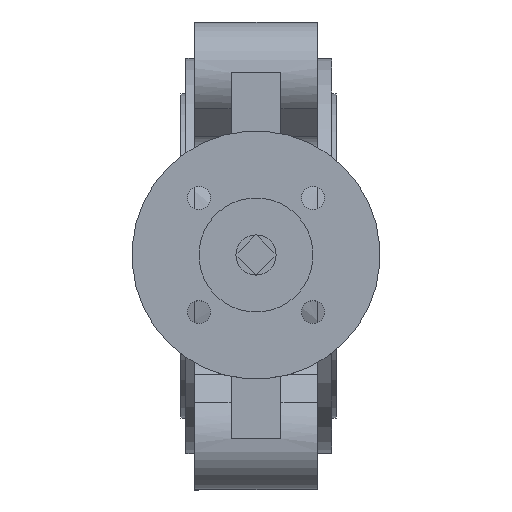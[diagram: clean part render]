
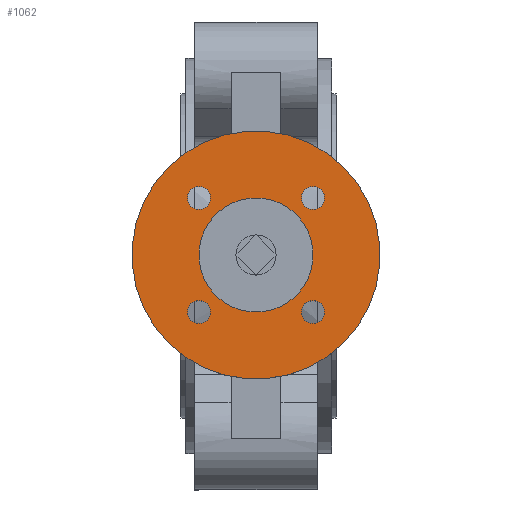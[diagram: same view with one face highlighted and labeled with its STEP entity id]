
A CAD part, top view. The second image highlights one B-rep face of the part: STEP entity #1062.
In plain terms, the highlighted planar face has unit normal (0, 0, 1).
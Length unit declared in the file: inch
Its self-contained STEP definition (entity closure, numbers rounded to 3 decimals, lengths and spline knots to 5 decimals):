
#918=CARTESIAN_POINT('',(1.21821,0.49321,10.62));
#919=VERTEX_POINT('',#918);
#920=CARTESIAN_POINT('',(0.725,0.,10.62));
#921=DIRECTION('',(0.0,0.0,-1.0));
#922=DIRECTION('',(0.707,0.707,0.0));
#923=AXIS2_PLACEMENT_3D('',#920,#921,#922);
#924=CIRCLE('',#923,0.6975);
#925=EDGE_CURVE('',#919,#919,#924,.T.);
#944=CARTESIAN_POINT('',(0.12749,0.7955,10.62));
#945=VERTEX_POINT('',#944);
#946=CARTESIAN_POINT('',(0.0285,0.6965,10.62));
#947=DIRECTION('',(0.0,0.0,-1.0));
#948=DIRECTION('',(-0.707,-0.707,0.0));
#949=AXIS2_PLACEMENT_3D('',#946,#947,#948);
#950=CIRCLE('',#949,0.14);
#951=EDGE_CURVE('',#945,#945,#950,.T.);
#964=CARTESIAN_POINT('',(1.32251,-0.7955,10.62));
#965=VERTEX_POINT('',#964);
#966=CARTESIAN_POINT('',(1.4215,-0.6965,10.62));
#967=DIRECTION('',(0.0,0.0,-1.0));
#968=DIRECTION('',(0.707,0.707,0.0));
#969=AXIS2_PLACEMENT_3D('',#966,#967,#968);
#970=CIRCLE('',#969,0.14);
#971=EDGE_CURVE('',#965,#965,#970,.T.);
#984=CARTESIAN_POINT('',(1.5205,0.59751,10.62));
#985=VERTEX_POINT('',#984);
#986=CARTESIAN_POINT('',(1.4215,0.6965,10.62));
#987=DIRECTION('',(0.0,0.0,-1.0));
#988=DIRECTION('',(-0.707,0.707,0.0));
#989=AXIS2_PLACEMENT_3D('',#986,#987,#988);
#990=CIRCLE('',#989,0.14);
#991=EDGE_CURVE('',#985,#985,#990,.T.);
#1004=CARTESIAN_POINT('',(-0.0705,-0.59751,10.62));
#1005=VERTEX_POINT('',#1004);
#1006=CARTESIAN_POINT('',(0.0285,-0.6965,10.62));
#1007=DIRECTION('',(0.0,0.0,-1.0));
#1008=DIRECTION('',(0.707,-0.707,0.0));
#1009=AXIS2_PLACEMENT_3D('',#1006,#1007,#1008);
#1010=CIRCLE('',#1009,0.14);
#1011=EDGE_CURVE('',#1005,#1005,#1010,.T.);
#1024=CARTESIAN_POINT('',(1.79627,1.07127,10.62));
#1025=VERTEX_POINT('',#1024);
#1026=CARTESIAN_POINT('',(0.725,0.,10.62));
#1027=DIRECTION('',(0.0,0.0,-1.0));
#1028=DIRECTION('',(0.707,0.707,0.0));
#1029=AXIS2_PLACEMENT_3D('',#1026,#1027,#1028);
#1030=CIRCLE('',#1029,1.515);
#1031=EDGE_CURVE('',#1025,#1025,#1030,.T.);
#1039=CARTESIAN_POINT('',(0.725,0.,10.62));
#1040=DIRECTION('',(0.0,0.0,1.0));
#1041=DIRECTION('',(0.707,0.707,0.0));
#1042=AXIS2_PLACEMENT_3D('',#1039,#1040,#1041);
#1043=PLANE('',#1042);
#1044=ORIENTED_EDGE('',*,*,#1031,.F.);
#1045=EDGE_LOOP('',(#1044));
#1046=FACE_OUTER_BOUND('',#1045,.T.);
#1047=ORIENTED_EDGE('',*,*,#925,.T.);
#1048=EDGE_LOOP('',(#1047));
#1049=FACE_BOUND('',#1048,.T.);
#1050=ORIENTED_EDGE('',*,*,#1011,.T.);
#1051=EDGE_LOOP('',(#1050));
#1052=FACE_BOUND('',#1051,.T.);
#1053=ORIENTED_EDGE('',*,*,#991,.T.);
#1054=EDGE_LOOP('',(#1053));
#1055=FACE_BOUND('',#1054,.T.);
#1056=ORIENTED_EDGE('',*,*,#971,.T.);
#1057=EDGE_LOOP('',(#1056));
#1058=FACE_BOUND('',#1057,.T.);
#1059=ORIENTED_EDGE('',*,*,#951,.T.);
#1060=EDGE_LOOP('',(#1059));
#1061=FACE_BOUND('',#1060,.T.);
#1062=ADVANCED_FACE('',(#1046,#1049,#1052,#1055,#1058,#1061),#1043,.T.);
